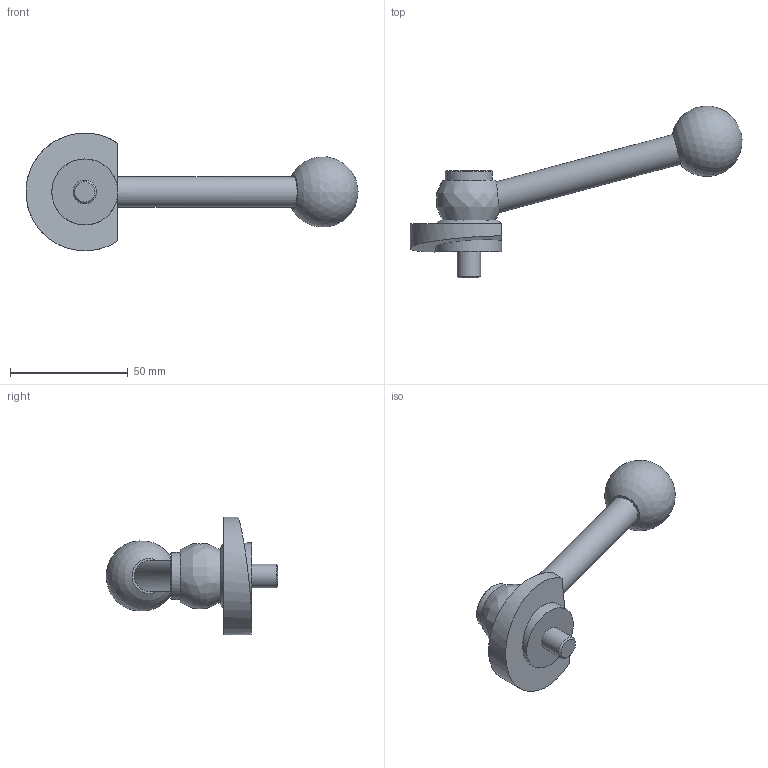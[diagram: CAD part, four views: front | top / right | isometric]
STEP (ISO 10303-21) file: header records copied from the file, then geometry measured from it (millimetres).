
FILE_DESCRIPTION( ( 'STEP AP203' ), '1' );
FILE_NAME( 'C:/Temp/Ganter_Step_05_03_2020/data/2_3/gn_918_2/Clamping bolt GN 918.2-50-KV-L.stp', '2020-03-05T13:12:06', ( 'License CC BY-ND 4.0' ), ( 'CADENAS' ), ' ', 'PARTsolutions', ' ' );
FILE_SCHEMA( ( 'CONFIG_CONTROL_DESIGN' ) );
Length unit declared in the file: millimetre
Products named in the file (1): _Clamping bolt GN 918.2-50-KV-L
Bounding box: 140.96 x 72.9 x 49.93 mm (x, y, z)
Volume: 52815.6 mm3; surface area: 12942.6 mm2
Topology: 1 solids, 1 shells, 33 faces, 76 edges, 46 vertices
Faces by surface type: plane 21, cylinder 6, cone 4, bspline 1, sphere 1
Full cylindrical faces by diameter (mm): 6 x1, 10 x1, 13 x1, 20 x1, 28 x1
Entity records: 934 total; most frequent: CARTESIAN_POINT 237, DIRECTION 142, ORIENTED_EDGE 108, AXIS2_PLACEMENT_3D 56, EDGE_CURVE 54, EDGE_LOOP 48, VERTEX_POINT 40, FACE_OUTER_BOUND 39
